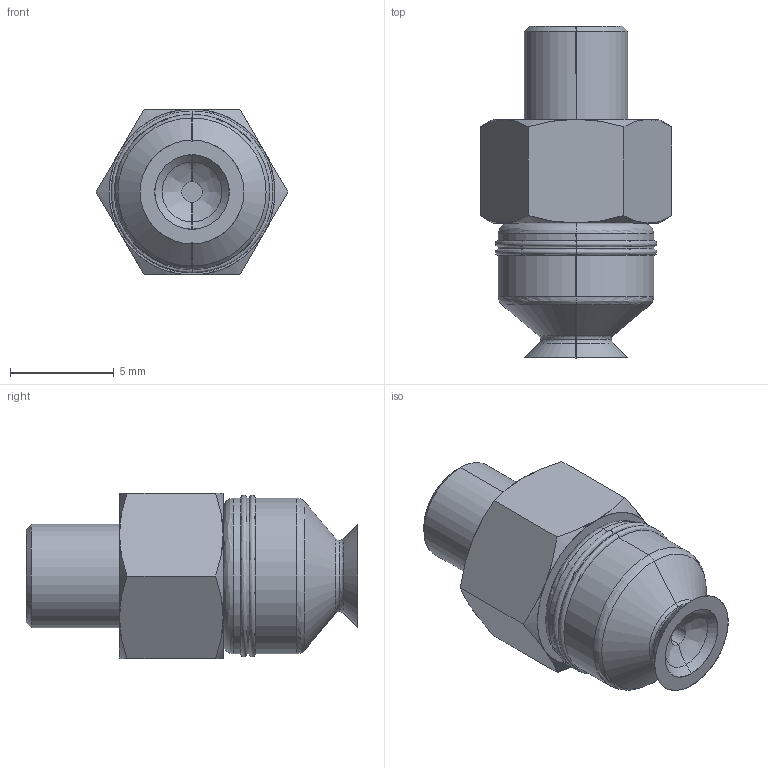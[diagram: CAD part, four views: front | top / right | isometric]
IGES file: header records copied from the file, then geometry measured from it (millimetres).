
Start section: SolidWorks IGES file using analytic representation for surfaces
Global section: file name: E:\eins\20070625石神\シュマルツ\SQNシリーズ\183827.IGS; native system: SolidWorks 2006 by SolidWorks Corporation; preprocessor: SolidWorks 2006 by SolidWorks Corporation; author: CAD54; date: 070625.163716; units: millimetre
Bounding box: 9.24 x 16 x 8 mm (x, y, z)
Surface area: 476.8 mm2 (no closed solid volume)
Topology: 0 solids, 0 shells, 55 faces, 496 edges, 496 vertices
Faces by surface type: revolution 30, bspline 25
